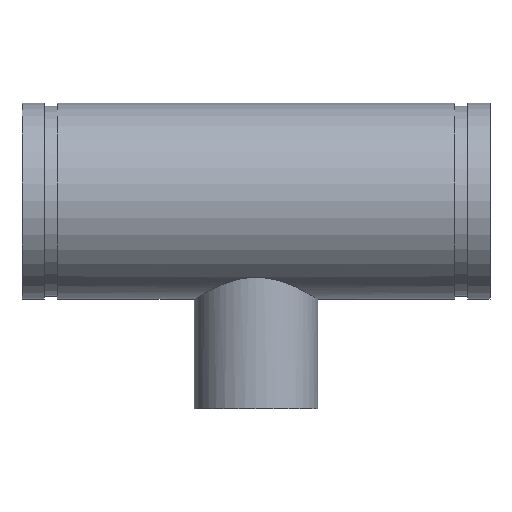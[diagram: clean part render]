
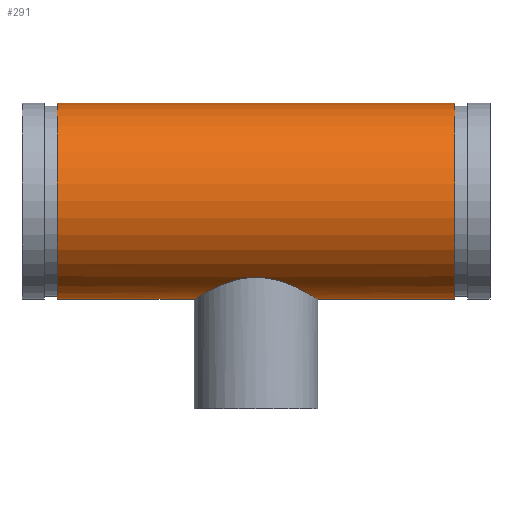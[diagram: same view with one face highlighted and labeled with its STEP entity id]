
A CAD part, top view. The second image highlights one B-rep face of the part: STEP entity #291.
In plain terms, the highlighted cylindrical face has radius 70.65 mm (diameter 141.3 mm), a full revolution.
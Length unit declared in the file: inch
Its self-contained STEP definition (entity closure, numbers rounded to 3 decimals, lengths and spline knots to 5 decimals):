
#45=B_SPLINE_CURVE_WITH_KNOTS('',3,(#511,#512,#513,#514,#515,#516,#517,
#518,#519,#520,#521,#522,#523,#524,#525,#526,#527,#528,#529,#530,#531,#532,
#533,#534,#535,#536,#537,#538,#539,#540,#541,#542,#543,#544,#545,#546,#547,
#548,#549,#550,#551,#552,#553,#554,#555,#556,#557,#558,#559,#560),
 .UNSPECIFIED.,.F.,.F.,(4,2,2,2,2,2,2,2,2,2,2,2,2,2,2,2,2,2,2,2,2,2,2,2,
4),(0.,0.87064,1.74127,2.61191,3.48254,
4.34607,5.20959,6.07311,6.93663,7.80016,
8.66368,9.5272,10.39072,11.26136,12.13199,
13.00263,13.87327,14.7439,15.61454,16.48517,
17.35581,18.21933,19.08285,19.94638,20.8099),
 .UNSPECIFIED.);
#46=B_SPLINE_CURVE_WITH_KNOTS('',3,(#561,#562,#563,#564,#565,#566,#567,
#568,#569,#570,#571,#572,#573,#574,#575,#576,#577,#578),.UNSPECIFIED.,.F.,
 .F.,(4,2,2,2,2,2,2,2,4),(20.8099,21.67342,22.53694,
23.40047,24.26399,25.13462,26.00526,26.8759,
27.74653),.UNSPECIFIED.);
#51=LINE('',#508,#59);
#59=VECTOR('',#410,2.7815);
#67=CYLINDRICAL_SURFACE('',#338,2.7815);
#77=FACE_BOUND('',#108,.T.);
#88=FACE_OUTER_BOUND('',#107,.T.);
#107=EDGE_LOOP('',(#221,#222,#223,#224));
#108=EDGE_LOOP('',(#225,#226));
#121=CIRCLE('',#321,2.7815);
#132=CIRCLE('',#337,2.7815);
#141=VERTEX_POINT('',#476);
#152=VERTEX_POINT('',#505);
#153=VERTEX_POINT('',#509);
#154=VERTEX_POINT('',#510);
#165=EDGE_CURVE('',#141,#141,#121,.T.);
#178=EDGE_CURVE('',#152,#152,#132,.T.);
#179=EDGE_CURVE('',#152,#141,#51,.T.);
#180=EDGE_CURVE('',#153,#154,#45,.T.);
#181=EDGE_CURVE('',#154,#153,#46,.T.);
#221=ORIENTED_EDGE('',*,*,#178,.T.);
#222=ORIENTED_EDGE('',*,*,#179,.T.);
#223=ORIENTED_EDGE('',*,*,#165,.T.);
#224=ORIENTED_EDGE('',*,*,#179,.F.);
#225=ORIENTED_EDGE('',*,*,#180,.F.);
#226=ORIENTED_EDGE('',*,*,#181,.F.);
#291=ADVANCED_FACE('',(#88,#77),#67,.T.);
#321=AXIS2_PLACEMENT_3D('',#477,#372,#373);
#337=AXIS2_PLACEMENT_3D('',#506,#406,#407);
#338=AXIS2_PLACEMENT_3D('',#507,#408,#409);
#372=DIRECTION('center_axis',(-1.,0.,0.));
#373=DIRECTION('ref_axis',(0.,-1.,0.));
#406=DIRECTION('center_axis',(1.,0.,0.));
#407=DIRECTION('ref_axis',(0.,-1.,0.));
#408=DIRECTION('center_axis',(-1.,0.,0.));
#409=DIRECTION('ref_axis',(0.,-1.,0.));
#410=DIRECTION('',(1.,0.,0.));
#476=CARTESIAN_POINT('',(5.63,2.7815,0.));
#477=CARTESIAN_POINT('Origin',(5.63,0.,0.));
#505=CARTESIAN_POINT('',(-5.63,2.7815,0.));
#506=CARTESIAN_POINT('Origin',(-5.63,0.,0.));
#507=CARTESIAN_POINT('Origin',(6.63,0.,0.));
#508=CARTESIAN_POINT('',(6.63,2.7815,0.));
#509=CARTESIAN_POINT('',(0.,-2.162,-1.75));
#510=CARTESIAN_POINT('',(-1.75,-2.7815,0.));
#511=CARTESIAN_POINT('Ctrl Pts',(0.,-2.162,
-1.75));
#512=CARTESIAN_POINT('Ctrl Pts',(0.11426,-2.162,-1.75));
#513=CARTESIAN_POINT('Ctrl Pts',(0.2307,-2.17134,-1.73865));
#514=CARTESIAN_POINT('Ctrl Pts',(0.45954,-2.20741,-1.69262));
#515=CARTESIAN_POINT('Ctrl Pts',(0.57196,-2.23405,-1.65796));
#516=CARTESIAN_POINT('Ctrl Pts',(0.78585,-2.29813,-1.56793));
#517=CARTESIAN_POINT('Ctrl Pts',(0.88755,-2.33553,-1.51248));
#518=CARTESIAN_POINT('Ctrl Pts',(1.07523,-2.4131,-1.38536));
#519=CARTESIAN_POINT('Ctrl Pts',(1.16121,-2.45322,-1.31366));
#520=CARTESIAN_POINT('Ctrl Pts',(1.31304,-2.52864,-1.16183));
#521=CARTESIAN_POINT('Ctrl Pts',(1.38463,-2.56684,-1.07618));
#522=CARTESIAN_POINT('Ctrl Pts',(1.51197,-2.63771,-0.88843));
#523=CARTESIAN_POINT('Ctrl Pts',(1.56773,-2.67034,-0.78633));
#524=CARTESIAN_POINT('Ctrl Pts',(1.65814,-2.7244,-0.57153));
#525=CARTESIAN_POINT('Ctrl Pts',(1.69288,-2.74586,-0.4586));
#526=CARTESIAN_POINT('Ctrl Pts',(1.73881,-2.77442,-0.2295));
#527=CARTESIAN_POINT('Ctrl Pts',(1.75,-2.7815,-0.11332));
#528=CARTESIAN_POINT('Ctrl Pts',(1.75,-2.7815,0.11332));
#529=CARTESIAN_POINT('Ctrl Pts',(1.73881,-2.77442,0.2295));
#530=CARTESIAN_POINT('Ctrl Pts',(1.69288,-2.74586,0.4586));
#531=CARTESIAN_POINT('Ctrl Pts',(1.65814,-2.7244,0.57153));
#532=CARTESIAN_POINT('Ctrl Pts',(1.56773,-2.67034,0.78633));
#533=CARTESIAN_POINT('Ctrl Pts',(1.51197,-2.63771,0.88843));
#534=CARTESIAN_POINT('Ctrl Pts',(1.38463,-2.56684,1.07618));
#535=CARTESIAN_POINT('Ctrl Pts',(1.31304,-2.52864,1.16183));
#536=CARTESIAN_POINT('Ctrl Pts',(1.16121,-2.45322,1.31366));
#537=CARTESIAN_POINT('Ctrl Pts',(1.07523,-2.4131,1.38536));
#538=CARTESIAN_POINT('Ctrl Pts',(0.88755,-2.33553,1.51248));
#539=CARTESIAN_POINT('Ctrl Pts',(0.78585,-2.29813,1.56793));
#540=CARTESIAN_POINT('Ctrl Pts',(0.57196,-2.23405,1.65796));
#541=CARTESIAN_POINT('Ctrl Pts',(0.45954,-2.20741,1.69262));
#542=CARTESIAN_POINT('Ctrl Pts',(0.2307,-2.17134,1.73865));
#543=CARTESIAN_POINT('Ctrl Pts',(0.11426,-2.162,1.75));
#544=CARTESIAN_POINT('Ctrl Pts',(-0.11426,-2.162,1.75));
#545=CARTESIAN_POINT('Ctrl Pts',(-0.2307,-2.17134,1.73865));
#546=CARTESIAN_POINT('Ctrl Pts',(-0.45954,-2.20741,1.69262));
#547=CARTESIAN_POINT('Ctrl Pts',(-0.57196,-2.23405,1.65796));
#548=CARTESIAN_POINT('Ctrl Pts',(-0.78585,-2.29813,1.56793));
#549=CARTESIAN_POINT('Ctrl Pts',(-0.88755,-2.33553,1.51248));
#550=CARTESIAN_POINT('Ctrl Pts',(-1.07523,-2.4131,1.38536));
#551=CARTESIAN_POINT('Ctrl Pts',(-1.16121,-2.45322,1.31366));
#552=CARTESIAN_POINT('Ctrl Pts',(-1.31304,-2.52864,1.16183));
#553=CARTESIAN_POINT('Ctrl Pts',(-1.38463,-2.56684,1.07618));
#554=CARTESIAN_POINT('Ctrl Pts',(-1.51197,-2.63771,0.88843));
#555=CARTESIAN_POINT('Ctrl Pts',(-1.56773,-2.67034,0.78633));
#556=CARTESIAN_POINT('Ctrl Pts',(-1.65814,-2.7244,0.57153));
#557=CARTESIAN_POINT('Ctrl Pts',(-1.69288,-2.74586,0.4586));
#558=CARTESIAN_POINT('Ctrl Pts',(-1.73881,-2.77442,0.2295));
#559=CARTESIAN_POINT('Ctrl Pts',(-1.75,-2.7815,0.11332));
#560=CARTESIAN_POINT('Ctrl Pts',(-1.75,-2.7815,0.));
#561=CARTESIAN_POINT('Ctrl Pts',(-1.75,-2.7815,0.));
#562=CARTESIAN_POINT('Ctrl Pts',(-1.75,-2.7815,-0.11332));
#563=CARTESIAN_POINT('Ctrl Pts',(-1.73881,-2.77442,-0.2295));
#564=CARTESIAN_POINT('Ctrl Pts',(-1.69288,-2.74586,-0.4586));
#565=CARTESIAN_POINT('Ctrl Pts',(-1.65814,-2.7244,-0.57153));
#566=CARTESIAN_POINT('Ctrl Pts',(-1.56773,-2.67034,-0.78633));
#567=CARTESIAN_POINT('Ctrl Pts',(-1.51197,-2.63771,-0.88843));
#568=CARTESIAN_POINT('Ctrl Pts',(-1.38463,-2.56684,-1.07618));
#569=CARTESIAN_POINT('Ctrl Pts',(-1.31304,-2.52864,-1.16183));
#570=CARTESIAN_POINT('Ctrl Pts',(-1.16121,-2.45322,-1.31366));
#571=CARTESIAN_POINT('Ctrl Pts',(-1.07523,-2.4131,-1.38536));
#572=CARTESIAN_POINT('Ctrl Pts',(-0.88755,-2.33553,-1.51248));
#573=CARTESIAN_POINT('Ctrl Pts',(-0.78585,-2.29813,-1.56793));
#574=CARTESIAN_POINT('Ctrl Pts',(-0.57196,-2.23405,-1.65796));
#575=CARTESIAN_POINT('Ctrl Pts',(-0.45954,-2.20741,-1.69262));
#576=CARTESIAN_POINT('Ctrl Pts',(-0.2307,-2.17134,-1.73865));
#577=CARTESIAN_POINT('Ctrl Pts',(-0.11426,-2.162,-1.75));
#578=CARTESIAN_POINT('Ctrl Pts',(0.,-2.162,
-1.75));
